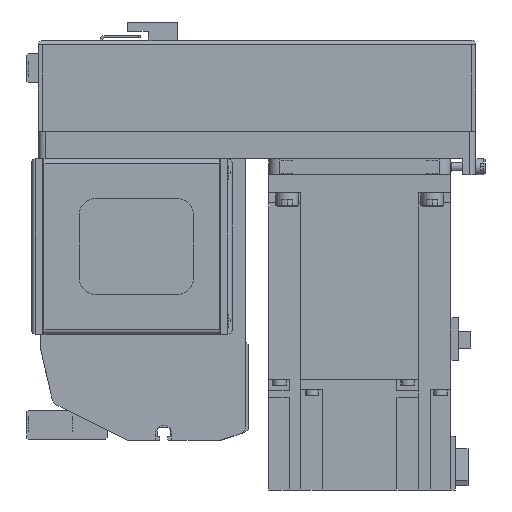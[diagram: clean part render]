
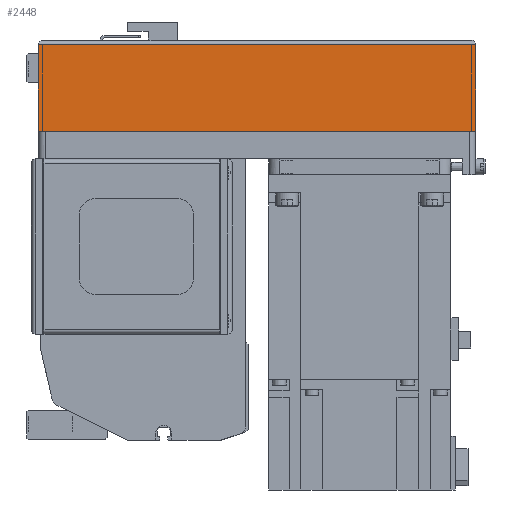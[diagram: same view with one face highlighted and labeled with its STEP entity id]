
A CAD part, left-side view. The second image highlights one B-rep face of the part: STEP entity #2448.
In plain terms, the highlighted planar face has unit normal (-1, 0, 0) as drawn and (0, -1, 0) by its records, which use the part's own axes.
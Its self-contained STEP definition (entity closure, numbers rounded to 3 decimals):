
#2448 = ADVANCED_FACE( '', ( #5418 ), #5419, .T. );
#5418 = FACE_OUTER_BOUND( '', #8912, .T. );
#5419 = PLANE( '', #8913 );
#8912 = EDGE_LOOP( '', ( #15770, #15771, #15772, #15773 ) );
#8913 = AXIS2_PLACEMENT_3D( '', #15774, #15775, #15776 );
#15770 = ORIENTED_EDGE( '', *, *, #22402, .F. );
#15771 = ORIENTED_EDGE( '', *, *, #22403, .F. );
#15772 = ORIENTED_EDGE( '', *, *, #20651, .T. );
#15773 = ORIENTED_EDGE( '', *, *, #22404, .T. );
#15774 = CARTESIAN_POINT( '', ( -192., -40., -12.1 ) );
#15775 = DIRECTION( '', ( 0., -1., 0. ) );
#15776 = DIRECTION( '', ( 0., 0., -1. ) );
#20651 = EDGE_CURVE( '', #23798, #24976, #24978, .T. );
#22402 = EDGE_CURVE( '', #27617, #27618, #27619, .T. );
#22403 = EDGE_CURVE( '', #23798, #27617, #27620, .T. );
#22404 = EDGE_CURVE( '', #24976, #27618, #27621, .T. );
#23798 = VERTEX_POINT( '', #29458 );
#24976 = VERTEX_POINT( '', #31182 );
#24978 = LINE( '', #31185, #31186 );
#27617 = VERTEX_POINT( '', #35206 );
#27618 = VERTEX_POINT( '', #35207 );
#27619 = LINE( '', #35208, #35209 );
#27620 = LINE( '', #35210, #35211 );
#27621 = LINE( '', #35212, #35213 );
#29458 = CARTESIAN_POINT( '', ( -192., -40., -12.1 ) );
#31182 = CARTESIAN_POINT( '', ( -192., -40., -50. ) );
#31185 = CARTESIAN_POINT( '', ( -192., -40., -12.1 ) );
#31186 = VECTOR( '', #38155, 1000. );
#35206 = CARTESIAN_POINT( '', ( 0., -40., -12.1 ) );
#35207 = CARTESIAN_POINT( '', ( 0., -40., -50. ) );
#35208 = CARTESIAN_POINT( '', ( 0., -40., -12.1 ) );
#35209 = VECTOR( '', #40266, 1000. );
#35210 = CARTESIAN_POINT( '', ( -192., -40., -12.1 ) );
#35211 = VECTOR( '', #40267, 1000. );
#35212 = CARTESIAN_POINT( '', ( -192., -40., -50. ) );
#35213 = VECTOR( '', #40268, 1000. );
#38155 = DIRECTION( '', ( 0., 0., -1. ) );
#40266 = DIRECTION( '', ( 0., 0., -1. ) );
#40267 = DIRECTION( '', ( 1., 0., 0. ) );
#40268 = DIRECTION( '', ( 1., 0., 0. ) );
